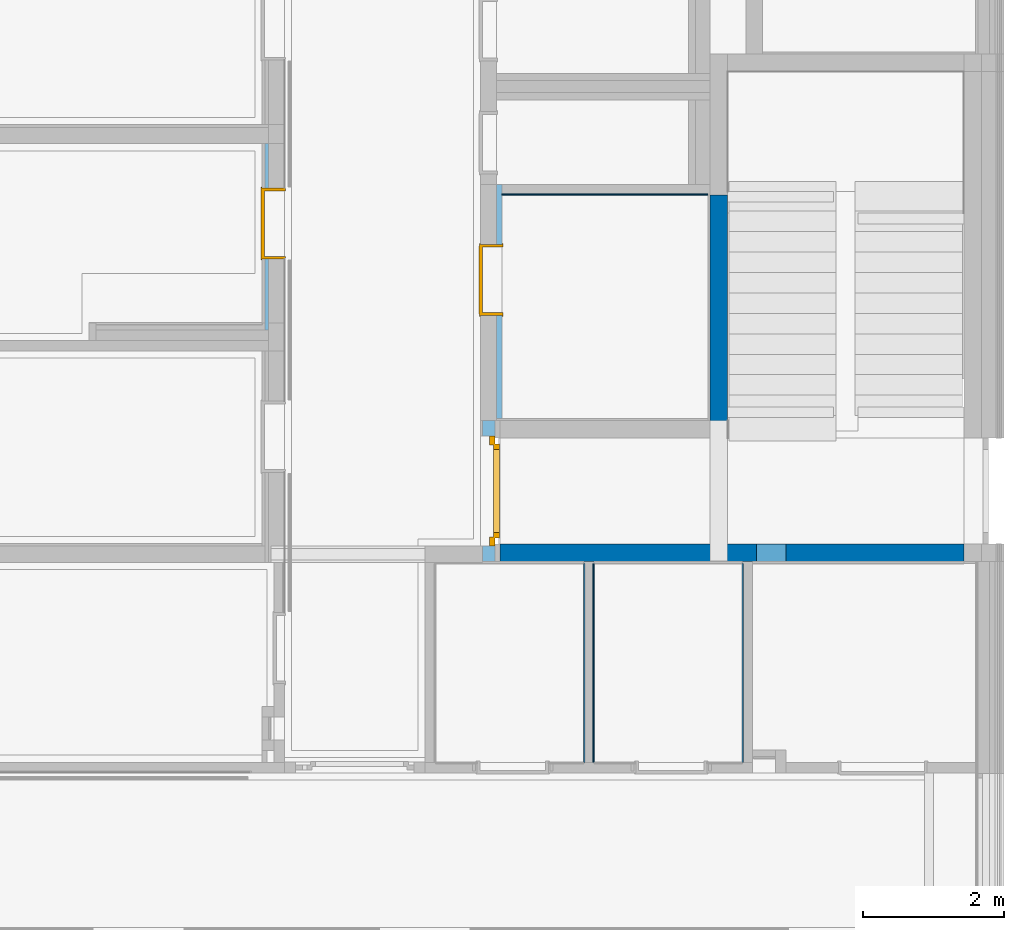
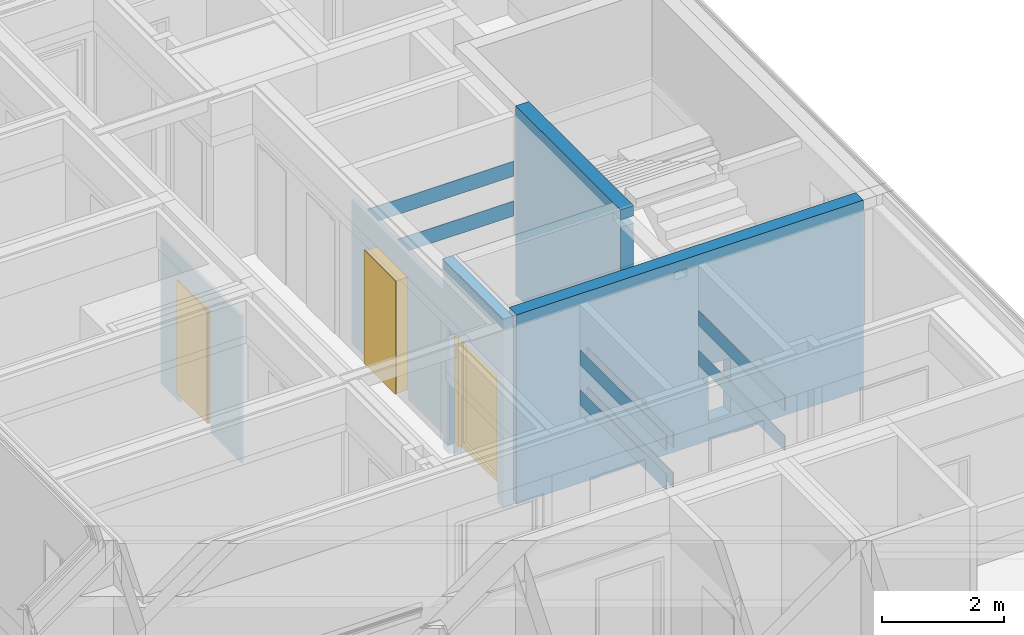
# One storey, part 141 of 207: 10 walls, 3 doors, 4 openings, plus 3 elements that do not belong to this part.
"""IFC4 building model written with IfcOpenShell, lengths in metres."""

from ifc_helpers import new_model, entity, si_unit, converted_unit, derived_unit, frame, frame_2d, origin, origin_with_axes, place, context, subcontext, project, spatial, polyline, rectangle, outline, extrude, closed_shell, open_shell, faceted_brep, surface_model, source, transform, mapped, material, type_object, element, fill, save


model = new_model("IFC4")

# Units and contexts
model_context = context("Model", 3, precision=1e-05, world=origin())
body_context = subcontext(model_context, "Body", "Model", "MODEL_VIEW")
ifc_project = project(units=[si_unit("LENGTHUNIT", "METRE"), si_unit("AREAUNIT", "SQUARE_METRE"), si_unit("VOLUMEUNIT", "CUBIC_METRE"), si_unit("MASSUNIT", "GRAM", prefix="KILO"), converted_unit("PLANEANGLEUNIT", "DEGREE", entity("IfcPlaneAngleMeasure", 0.0174532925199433), si_unit("PLANEANGLEUNIT", "RADIAN"), dimensions=[0, 0, 0, 0, 0, 0, 0]), derived_unit("THERMALTRANSMITTANCEUNIT", [(si_unit("POWERUNIT", "WATT"), 1), (si_unit("THERMODYNAMICTEMPERATUREUNIT", "KELVIN"), -1), (si_unit("LENGTHUNIT", "METRE"), -2)]), derived_unit("VOLUMETRICFLOWRATEUNIT", [(si_unit("LENGTHUNIT", "METRE"), 3), (converted_unit("TIMEUNIT", "hour", entity("IfcTimeMeasure", 3600.0), si_unit("TIMEUNIT", "SECOND"), dimensions=[0, 0, 1, 0, 0, 0, 0]), -1), (si_unit("LENGTHUNIT", "METRE"), -1)])], contexts=[model_context])

# Site, building, storey
site_placement = place(None, origin())
site = spatial("IfcSite", under=ifc_project, at=site_placement, Name="Psychiatrie Neubau Wunstorf", CompositionType="ELEMENT")
building_placement = place(site_placement, origin())
building = spatial("IfcBuilding", under=site, at=building_placement, Name="Neubau H2 Stationsgebäude", CompositionType="ELEMENT")
storey_placement = place(building_placement, frame((0.0, 0.0, -0.2)))
storey = spatial("IfcBuildingStorey", under=building, at=storey_placement, Name="H2 Ebene 0", CompositionType="ELEMENT", Elevation=-0.2)

# Walls
for number, where, name in (
    (1, (100.457, 7.77500025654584, 1.6), "WV 1.1"),
    (2, (100.325, 7.77500025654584, 1.6), "WV 1.1"),
    (3, (102.575, 7.77500025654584, 1.6), "WV 1.1"),
    (4, (100.457, 7.77500025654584, 2.4), "WV 1.1"),
    (5, (100.325, 7.77500025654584, 2.4), "WV 1.1"),
    (6, (102.575, 7.77500025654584, 2.4), "WV 1.1"),
):
    element("IfcWall", number, at=place(storey_placement, frame(where)), inside=storey, Name=name, context=body_context, shape_type="Brep", body=[
        faceted_brep([(0.0, 0.0, 0.0), (0.018, 0.0, 0.0), (0.018, 2.82, 0.0), (0.0, 2.82, 0.0), (0.018, 0.0, 0.3), (0.0, 0.0, 0.3), (0.0, 2.82, 0.3), (0.018, 2.82, 0.3)], [[[0, 1, 2, 3]], [[4, 5, 6, 7]], [[1, 0, 5, 4]], [[2, 1, 4, 7]], [[3, 2, 7, 6]], [[0, 3, 6, 5]]], orient=[[False], [False], [False], [False], [False], [False]]),
    ])
for number, where, name in (
    (7, (99.166, 15.8249998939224, 1.6), "WV 1.1"),
    (8, (99.166, 15.8249998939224, 2.4), "WV 1.1"),
):
    element("IfcWall", number, at=place(storey_placement, frame(where)), inside=storey, Name=name, context=body_context, shape_type="Brep", body=[
        faceted_brep([(0.0, 0.018, 0.0), (0.0, 0.0, 0.0), (2.92, 0.0, 0.0), (2.92, 0.018, 0.0), (0.0, 0.0, 0.3), (0.0, 0.018, 0.3), (2.92, 0.018, 0.3), (2.92, 0.0, 0.3)], [[[0, 1, 2, 3]], [[4, 5, 6, 7]], [[1, 0, 5, 4]], [[2, 1, 4, 7]], [[3, 2, 7, 6]], [[0, 3, 6, 5]]], orient=[[False], [False], [False], [False], [False], [False]]),
    ])

# Wall, opening, door
ifc_material_1 = material(Name="Installationsraum")
wall_1_placement = place(storey_placement, frame((95.8005000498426, 16.5535, 0.0), z_axis=(0.0, 0.0, 1.0), x_axis=(0.0, -1.0, 0.0)))
wall_1 = element("IfcWall", 9, at=wall_1_placement, inside=storey, material=ifc_material_1, context=body_context, shape_type="SweptSolid", body=[
    extrude(rectangle(XDim=2.64250003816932, YDim=0.05, at=frame_2d((1.32125001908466, 0.025), x_axis=(1.0, 0.0))), origin_with_axes(), (0.0, 0.0, 1.0), 2.95),
])
opening_1_placement = place(wall_1_placement, frame((1.63849999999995, 0.05, 0.0), z_axis=(0.0, -1.0, 0.0), x_axis=(0.0, 0.0, 1.0)))
opening_1 = element("IfcOpeningElement", 10, at=opening_1_placement, cuts=wall_1, Name="Türöffnung", ObjectType="Opening", context=body_context, shape_type="SweptSolid", body=[
    extrude(outline(polyline([(2.46, 1.01), (2.46, 0.0), (0.0, 0.0), (0.0, 1.01), (2.46, 1.01)])), origin_with_axes(), (0.0, 0.0, 1.0), 0.05),
])
ifc_material_2 = material(Name="TI-1F-UZ-ZK")
door_type_1 = type_object("IfcDoorType", Name="SMT", OperationType="SINGLE_SWING_RIGHT", ParameterTakesPrecedence=False, PredefinedType="DOOR")
shared_shape_1 = source(origin_with_axes(), body_context, "Body", "Brep", [
    faceted_brep([(1.01, -0.0149999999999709, 2.46), (1.01, -0.0149999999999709, 0.2), (0.969999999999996, -0.0149999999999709, 0.2), (0.969999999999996, -0.0149999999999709, 2.46), (1.01, 0.336499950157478, 0.2), (1.01, 0.336499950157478, 2.46), (0.969999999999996, 0.336499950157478, 2.46), (0.969999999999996, 0.336499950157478, 0.2)], [[[0, 1, 2, 3]], [[4, 5, 6, 7]], [[1, 0, 5, 4]], [[2, 1, 4, 7]], [[3, 2, 7, 6]], [[0, 3, 6, 5]]], orient=[[False], [False], [False], [False], [False], [False]]),
    faceted_brep([(1.01, -0.0149999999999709, 2.475), (1.025, -0.0149999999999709, 2.475), (1.025, -0.0149999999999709, 0.2), (1.01, -0.0149999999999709, 0.2), (1.01, 0.0, 0.2), (1.025, 0.0, 0.2), (1.025, 0.0, 2.475), (1.01, 0.0, 2.475)], [[[0, 1, 2, 3]], [[4, 5, 6, 7]], [[3, 4, 7, 0]], [[2, 5, 4, 3]], [[1, 6, 5, 2]], [[0, 7, 6, 1]]], orient=[[False], [False], [False], [False], [False], [False]]),
    faceted_brep([(1.01, 0.321499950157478, 2.475), (1.025, 0.321499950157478, 2.475), (1.025, 0.321499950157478, 0.2), (1.01, 0.321499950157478, 0.2), (1.01, 0.336499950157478, 0.2), (1.025, 0.336499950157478, 0.2), (1.025, 0.336499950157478, 2.475), (1.01, 0.336499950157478, 2.475)], [[[0, 1, 2, 3]], [[4, 5, 6, 7]], [[3, 4, 7, 0]], [[2, 5, 4, 3]], [[1, 6, 5, 2]], [[0, 7, 6, 1]]], orient=[[False], [False], [False], [False], [False], [False]]),
    faceted_brep([(0.0399999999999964, -0.0149999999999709, 2.46), (0.0399999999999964, -0.0149999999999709, 0.2), (0.0, -0.0149999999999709, 0.2), (0.0, -0.0149999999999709, 2.46), (0.0399999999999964, 0.336499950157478, 0.2), (0.0399999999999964, 0.336499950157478, 2.46), (0.0, 0.336499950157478, 2.46), (0.0, 0.336499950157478, 0.2)], [[[0, 1, 2, 3]], [[4, 5, 6, 7]], [[1, 0, 5, 4]], [[2, 1, 4, 7]], [[3, 2, 7, 6]], [[0, 3, 6, 5]]], orient=[[False], [False], [False], [False], [False], [False]]),
    faceted_brep([(0.0, -0.0149999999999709, 2.475), (0.0, -0.0149999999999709, 0.2), (-0.0150000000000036, -0.0149999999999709, 0.2), (-0.0150000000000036, -0.0149999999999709, 2.475), (0.0, 0.0, 0.2), (0.0, 0.0, 2.475), (-0.0150000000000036, 0.0, 2.475), (-0.0150000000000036, 0.0, 0.2)], [[[0, 1, 2, 3]], [[4, 5, 6, 7]], [[1, 0, 5, 4]], [[2, 1, 4, 7]], [[3, 2, 7, 6]], [[0, 3, 6, 5]]], orient=[[False], [False], [False], [False], [False], [False]]),
    faceted_brep([(0.0, 0.321499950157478, 2.475), (0.0, 0.321499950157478, 0.2), (-0.0150000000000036, 0.321499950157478, 0.2), (-0.0150000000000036, 0.321499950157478, 2.475), (0.0, 0.336499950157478, 0.2), (0.0, 0.336499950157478, 2.475), (-0.0150000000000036, 0.336499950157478, 2.475), (-0.0150000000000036, 0.336499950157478, 0.2)], [[[0, 1, 2, 3]], [[4, 5, 6, 7]], [[1, 0, 5, 4]], [[2, 1, 4, 7]], [[3, 2, 7, 6]], [[0, 3, 6, 5]]], orient=[[False], [False], [False], [False], [False], [False]]),
    faceted_brep([(0.969999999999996, -0.0149999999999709, 2.46), (0.969999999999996, -0.0149999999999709, 2.42), (0.0399999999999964, -0.0149999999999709, 2.42), (0.0399999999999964, -0.0149999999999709, 2.46), (0.969999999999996, 0.336499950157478, 2.42), (0.969999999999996, 0.336499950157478, 2.46), (0.0399999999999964, 0.336499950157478, 2.46), (0.0399999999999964, 0.336499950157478, 2.42)], [[[0, 1, 2, 3]], [[4, 5, 6, 7]], [[1, 0, 5, 4]], [[2, 1, 4, 7]], [[3, 2, 7, 6]], [[0, 3, 6, 5]]], orient=[[False], [False], [False], [False], [False], [False]]),
    faceted_brep([(1.01, -0.0149999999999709, 2.475), (1.01, -0.0149999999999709, 2.46), (0.0, -0.0149999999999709, 2.46), (0.0, -0.0149999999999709, 2.475), (1.01, 0.0, 2.46), (1.01, 0.0, 2.475), (0.0, 0.0, 2.475), (0.0, 0.0, 2.46)], [[[0, 1, 2, 3]], [[4, 5, 6, 7]], [[1, 0, 5, 4]], [[2, 1, 4, 7]], [[3, 2, 7, 6]], [[0, 3, 6, 5]]], orient=[[False], [False], [False], [False], [False], [False]]),
    faceted_brep([(1.01, 0.321499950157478, 2.475), (1.01, 0.321499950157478, 2.46), (0.0, 0.321499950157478, 2.46), (0.0, 0.321499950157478, 2.475), (1.01, 0.336499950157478, 2.46), (1.01, 0.336499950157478, 2.475), (0.0, 0.336499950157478, 2.475), (0.0, 0.336499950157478, 2.46)], [[[0, 1, 2, 3]], [[4, 5, 6, 7]], [[1, 0, 5, 4]], [[2, 1, 4, 7]], [[3, 2, 7, 6]], [[0, 3, 6, 5]]], orient=[[False], [False], [False], [False], [False], [False]]),
    faceted_brep([(0.984999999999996, 0.287499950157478, 2.435), (0.984999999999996, 0.287499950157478, 0.2), (0.0249999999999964, 0.287499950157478, 0.2), (0.0249999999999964, 0.287499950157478, 2.435), (0.984999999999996, 0.337499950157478, 0.2), (0.984999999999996, 0.337499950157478, 2.435), (0.0249999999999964, 0.337499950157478, 2.435), (0.0249999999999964, 0.337499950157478, 0.2)], [[[0, 1, 2, 3]], [[4, 5, 6, 7]], [[1, 0, 5, 4]], [[2, 1, 4, 7]], [[3, 2, 7, 6]], [[0, 3, 6, 5]]], orient=[[False], [False], [False], [False], [False], [False]]),
])
door_1_placement = place(opening_1_placement, frame((0.0, 0.0, -0.231999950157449), z_axis=(1.0, 0.0, 0.0), x_axis=(0.0, 1.0, 0.0)))
door_1 = element("IfcDoor", 11, at=door_1_placement, inside=storey, type_object=door_type_1, material=ifc_material_2, Name="SMT", OverallHeight=2.46, OverallWidth=1.01, context=body_context, shape_type="MappedRepresentation", body=[
    mapped(shared_shape_1, transform((0.0, 0.0, 0.0), x_axis=(1.0, 0.0, 0.0), y_axis=(0.0, 1.0, 0.0), z_axis=(0.0, 0.0, 1.0), scale=1.0)),
])
fill(opening_1, door_1)

ifc_material_3 = material(Name="WI-LB")
wall_2_placement = place(storey_placement, frame((99.166, 12.6550009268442, 0.0), z_axis=(0.0, 0.0, 1.0), x_axis=(0.0, 1.0, 0.0)))
wall_2 = element("IfcWall", 12, at=wall_2_placement, inside=storey, material=ifc_material_3, context=body_context, shape_type="SweptSolid", body=[
    extrude(rectangle(XDim=3.31999896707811, YDim=0.075, at=frame_2d((1.65999948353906, 0.0375), x_axis=(1.0, 0.0))), origin_with_axes(), (0.0, 0.0, 1.0), 2.9),
])
opening_2_placement = place(wall_2_placement, frame((2.47000039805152, 0.075, 0.0), z_axis=(0.0, -1.0, 0.0), x_axis=(0.0, 0.0, 1.0)))
opening_2 = element("IfcOpeningElement", 13, at=opening_2_placement, cuts=wall_2, Name="Türöffnung", ObjectType="Opening", context=body_context, shape_type="SweptSolid", body=[
    extrude(outline(polyline([(2.46, 1.01), (2.46, 0.0), (0.0, 0.0), (0.0, 1.01), (2.46, 1.01)])), origin_with_axes(), (0.0, 0.0, 1.0), 0.075),
])
ifc_material_4 = material(Name="TI-1F-UZ-ZK")
door_type_2 = type_object("IfcDoorType", Name="SMT", OperationType="SINGLE_SWING_RIGHT", ParameterTakesPrecedence=False, PredefinedType="DOOR")
shared_shape_2 = source(origin_with_axes(), body_context, "Body", "Brep", [
    faceted_brep([(1.01, -0.0149999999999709, 2.46), (1.01, -0.0149999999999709, 0.2), (0.969999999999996, -0.0149999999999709, 0.2), (0.969999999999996, -0.0149999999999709, 2.46), (1.01, 0.322000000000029, 0.2), (1.01, 0.322000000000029, 2.46), (0.969999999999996, 0.322000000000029, 2.46), (0.969999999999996, 0.322000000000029, 0.2)], [[[0, 1, 2, 3]], [[4, 5, 6, 7]], [[1, 0, 5, 4]], [[2, 1, 4, 7]], [[3, 2, 7, 6]], [[0, 3, 6, 5]]], orient=[[False], [False], [False], [False], [False], [False]]),
    faceted_brep([(1.01, -0.0149999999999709, 2.475), (1.025, -0.0149999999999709, 2.475), (1.025, -0.0149999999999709, 0.2), (1.01, -0.0149999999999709, 0.2), (1.01, 0.0, 0.2), (1.025, 0.0, 0.2), (1.025, 0.0, 2.475), (1.01, 0.0, 2.475)], [[[0, 1, 2, 3]], [[4, 5, 6, 7]], [[3, 4, 7, 0]], [[2, 5, 4, 3]], [[1, 6, 5, 2]], [[0, 7, 6, 1]]], orient=[[False], [False], [False], [False], [False], [False]]),
    faceted_brep([(1.01, 0.307000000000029, 2.475), (1.025, 0.307000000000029, 2.475), (1.025, 0.307000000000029, 0.2), (1.01, 0.307000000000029, 0.2), (1.01, 0.322000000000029, 0.2), (1.025, 0.322000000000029, 0.2), (1.025, 0.322000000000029, 2.475), (1.01, 0.322000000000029, 2.475)], [[[0, 1, 2, 3]], [[4, 5, 6, 7]], [[3, 4, 7, 0]], [[2, 5, 4, 3]], [[1, 6, 5, 2]], [[0, 7, 6, 1]]], orient=[[False], [False], [False], [False], [False], [False]]),
    faceted_brep([(0.0399999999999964, -0.0149999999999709, 2.46), (0.0399999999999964, -0.0149999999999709, 0.2), (0.0, -0.0149999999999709, 0.2), (0.0, -0.0149999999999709, 2.46), (0.0399999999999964, 0.322000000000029, 0.2), (0.0399999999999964, 0.322000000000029, 2.46), (0.0, 0.322000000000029, 2.46), (0.0, 0.322000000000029, 0.2)], [[[0, 1, 2, 3]], [[4, 5, 6, 7]], [[1, 0, 5, 4]], [[2, 1, 4, 7]], [[3, 2, 7, 6]], [[0, 3, 6, 5]]], orient=[[False], [False], [False], [False], [False], [False]]),
    faceted_brep([(0.0, -0.0149999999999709, 2.475), (0.0, -0.0149999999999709, 0.2), (-0.0150000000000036, -0.0149999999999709, 0.2), (-0.0150000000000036, -0.0149999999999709, 2.475), (0.0, 0.0, 0.2), (0.0, 0.0, 2.475), (-0.0150000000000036, 0.0, 2.475), (-0.0150000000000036, 0.0, 0.2)], [[[0, 1, 2, 3]], [[4, 5, 6, 7]], [[1, 0, 5, 4]], [[2, 1, 4, 7]], [[3, 2, 7, 6]], [[0, 3, 6, 5]]], orient=[[False], [False], [False], [False], [False], [False]]),
    faceted_brep([(0.0, 0.307000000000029, 2.475), (0.0, 0.307000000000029, 0.2), (-0.0150000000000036, 0.307000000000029, 0.2), (-0.0150000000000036, 0.307000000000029, 2.475), (0.0, 0.322000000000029, 0.2), (0.0, 0.322000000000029, 2.475), (-0.0150000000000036, 0.322000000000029, 2.475), (-0.0150000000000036, 0.322000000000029, 0.2)], [[[0, 1, 2, 3]], [[4, 5, 6, 7]], [[1, 0, 5, 4]], [[2, 1, 4, 7]], [[3, 2, 7, 6]], [[0, 3, 6, 5]]], orient=[[False], [False], [False], [False], [False], [False]]),
    faceted_brep([(0.969999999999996, -0.0149999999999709, 2.46), (0.969999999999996, -0.0149999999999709, 2.42), (0.0399999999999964, -0.0149999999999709, 2.42), (0.0399999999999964, -0.0149999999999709, 2.46), (0.969999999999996, 0.322000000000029, 2.42), (0.969999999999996, 0.322000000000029, 2.46), (0.0399999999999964, 0.322000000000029, 2.46), (0.0399999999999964, 0.322000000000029, 2.42)], [[[0, 1, 2, 3]], [[4, 5, 6, 7]], [[1, 0, 5, 4]], [[2, 1, 4, 7]], [[3, 2, 7, 6]], [[0, 3, 6, 5]]], orient=[[False], [False], [False], [False], [False], [False]]),
    faceted_brep([(1.01, -0.0149999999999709, 2.475), (1.01, -0.0149999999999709, 2.46), (0.0, -0.0149999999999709, 2.46), (0.0, -0.0149999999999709, 2.475), (1.01, 0.0, 2.46), (1.01, 0.0, 2.475), (0.0, 0.0, 2.475), (0.0, 0.0, 2.46)], [[[0, 1, 2, 3]], [[4, 5, 6, 7]], [[1, 0, 5, 4]], [[2, 1, 4, 7]], [[3, 2, 7, 6]], [[0, 3, 6, 5]]], orient=[[False], [False], [False], [False], [False], [False]]),
    faceted_brep([(1.01, 0.307000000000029, 2.475), (1.01, 0.307000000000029, 2.46), (0.0, 0.307000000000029, 2.46), (0.0, 0.307000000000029, 2.475), (1.01, 0.322000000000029, 2.46), (1.01, 0.322000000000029, 2.475), (0.0, 0.322000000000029, 2.475), (0.0, 0.322000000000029, 2.46)], [[[0, 1, 2, 3]], [[4, 5, 6, 7]], [[1, 0, 5, 4]], [[2, 1, 4, 7]], [[3, 2, 7, 6]], [[0, 3, 6, 5]]], orient=[[False], [False], [False], [False], [False], [False]]),
    faceted_brep([(0.984999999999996, 0.273000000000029, 2.435), (0.984999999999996, 0.273000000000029, 0.2), (0.0249999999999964, 0.273000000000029, 0.2), (0.0249999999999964, 0.273000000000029, 2.435), (0.984999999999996, 0.323000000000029, 0.2), (0.984999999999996, 0.323000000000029, 2.435), (0.0249999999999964, 0.323000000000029, 2.435), (0.0249999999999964, 0.323000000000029, 0.2)], [[[0, 1, 2, 3]], [[4, 5, 6, 7]], [[1, 0, 5, 4]], [[2, 1, 4, 7]], [[3, 2, 7, 6]], [[0, 3, 6, 5]]], orient=[[False], [False], [False], [False], [False], [False]]),
])
door_2_placement = place(opening_2_placement, frame((0.0, 1.01, 0.075), z_axis=(1.0, 0.0, 0.0), x_axis=(0.0, -1.0, 0.0)))
door_2 = element("IfcDoor", 14, at=door_2_placement, inside=storey, type_object=door_type_2, material=ifc_material_4, Name="SMT", OverallHeight=2.46, OverallWidth=1.01, context=body_context, shape_type="MappedRepresentation", body=[
    mapped(shared_shape_2, transform((0.0, 0.0, 0.0), x_axis=(1.0, 0.0, 0.0), y_axis=(0.0, 1.0, 0.0), z_axis=(0.0, 0.0, 1.0), scale=1.0)),
])
fill(opening_2, door_2)

ifc_material_5 = material(Name="WI-STB")
wall_3_placement = place(storey_placement, frame((99.0689919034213, 10.6249998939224, 0.0), z_axis=(0.0, 0.0, 1.0), x_axis=(0.0, 1.0, 0.0)))
wall_3 = element("IfcWall", 15, at=wall_3_placement, inside=storey, material=ifc_material_5, context=body_context, shape_type="SweptSolid", body=[
    extrude(rectangle(XDim=1.99998789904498, YDim=0.18, at=frame_2d((0.999993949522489, 0.09), x_axis=(1.0, 0.0))), origin_with_axes(), (0.0, 0.0, 1.0), 3.8),
])
opening_3_placement = place(wall_3_placement, frame((1.78, 0.18, 0.0), z_axis=(0.0, -1.0, 0.0), x_axis=(0.0, 0.0, 1.0)))
opening_3 = element("IfcOpeningElement", 16, at=opening_3_placement, cuts=wall_3, Name="Türöffnung", ObjectType="Opening", context=body_context, shape_type="SweptSolid", body=[
    extrude(outline(polyline([(2.55, 1.56), (2.55, 0.0), (0.0, 0.0), (0.0, 1.56), (2.55, 1.56)])), origin_with_axes(), (0.0, 0.0, 1.0), 0.18),
])
ifc_material_6 = material(Name="TI-1F-AG-D-O")
door_type_3 = type_object("IfcDoorType", Name="SMT", OperationType="SINGLE_SWING_LEFT", ParameterTakesPrecedence=False, PredefinedType="DOOR")
shared_shape_3 = source(origin_with_axes(), body_context, "Body", "SurfaceModel", [
    surface_model("IfcShellBasedSurfaceModel", [(1.56, 0.0800003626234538, 2.55), (1.51, 0.0800003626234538, 2.55), (1.51, 0.0800003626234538, 0.2), (1.56, 0.0800003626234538, 0.2), (1.56, 3.62623453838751e-07, 0.2), (1.51, 3.62623453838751e-07, 0.2), (1.51, 3.62623453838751e-07, 2.55), (1.56, 3.62623453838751e-07, 2.55)], [closed_shell([[[0, 1, 2, 3]], [[4, 5, 6, 7]], [[3, 4, 7, 0]], [[2, 5, 4, 3]], [[1, 6, 5, 2]], [[0, 7, 6, 1]]], orient=[[False], [False], [False], [False], [False], [False]])]),
    surface_model("IfcShellBasedSurfaceModel", [(0.0500000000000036, 0.0800003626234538, 2.55), (0.0, 0.0800003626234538, 2.55), (0.0, 0.0800003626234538, 0.2), (0.0500000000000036, 0.0800003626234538, 0.2), (0.0500000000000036, 3.62623453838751e-07, 0.2), (0.0, 3.62623453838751e-07, 0.2), (0.0, 3.62623453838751e-07, 2.55), (0.0500000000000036, 3.62623453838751e-07, 2.55)], [closed_shell([[[0, 1, 2, 3]], [[4, 5, 6, 7]], [[3, 4, 7, 0]], [[2, 5, 4, 3]], [[1, 6, 5, 2]], [[0, 7, 6, 1]]], orient=[[False], [False], [False], [False], [False], [False]])]),
    surface_model("IfcShellBasedSurfaceModel", [(1.51, 0.0800003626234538, 2.55), (0.0500000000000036, 0.0800003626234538, 2.55), (0.0500000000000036, 0.0800003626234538, 2.5), (1.51, 0.0800003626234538, 2.5), (1.51, 3.62623453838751e-07, 2.5), (0.0500000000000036, 3.62623453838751e-07, 2.5), (0.0500000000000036, 3.62623453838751e-07, 2.55), (1.51, 3.62623453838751e-07, 2.55)], [closed_shell([[[0, 1, 2, 3]], [[4, 5, 6, 7]], [[3, 4, 7, 0]], [[2, 5, 4, 3]], [[1, 6, 5, 2]], [[0, 7, 6, 1]]], orient=[[False], [False], [False], [False], [False], [False]])]),
    surface_model("IfcShellBasedSurfaceModel", [(1.51, 0.0800003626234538, 2.5), (1.43, 0.0800003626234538, 2.5), (1.43, 0.0800003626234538, 0.2), (1.51, 0.0800003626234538, 0.2), (1.51, 3.62623453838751e-07, 0.2), (1.43, 3.62623453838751e-07, 0.2), (1.43, 3.62623453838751e-07, 2.5), (1.51, 3.62623453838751e-07, 2.5)], [closed_shell([[[0, 1, 2, 3]], [[4, 5, 6, 7]], [[3, 4, 7, 0]], [[2, 5, 4, 3]], [[1, 6, 5, 2]], [[0, 7, 6, 1]]], orient=[[False], [False], [False], [False], [False], [False]])]),
    surface_model("IfcShellBasedSurfaceModel", [(0.130000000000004, 0.0800003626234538, 2.5), (0.0500000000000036, 0.0800003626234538, 2.5), (0.0500000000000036, 0.0800003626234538, 0.2), (0.130000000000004, 0.0800003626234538, 0.2), (0.130000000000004, 3.62623453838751e-07, 0.2), (0.0500000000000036, 3.62623453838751e-07, 0.2), (0.0500000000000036, 3.62623453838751e-07, 2.5), (0.130000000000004, 3.62623453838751e-07, 2.5)], [closed_shell([[[0, 1, 2, 3]], [[4, 5, 6, 7]], [[3, 4, 7, 0]], [[2, 5, 4, 3]], [[1, 6, 5, 2]], [[0, 7, 6, 1]]], orient=[[False], [False], [False], [False], [False], [False]])]),
    surface_model("IfcShellBasedSurfaceModel", [(1.43, 0.0800003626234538, 2.5), (0.130000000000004, 0.0800003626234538, 2.5), (0.130000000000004, 0.0800003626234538, 2.42), (1.43, 0.0800003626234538, 2.42), (1.43, 3.62623453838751e-07, 2.42), (0.130000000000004, 3.62623453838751e-07, 2.42), (0.130000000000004, 3.62623453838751e-07, 2.5), (1.43, 3.62623453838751e-07, 2.5)], [closed_shell([[[0, 1, 2, 3]], [[4, 5, 6, 7]], [[3, 4, 7, 0]], [[2, 5, 4, 3]], [[1, 6, 5, 2]], [[0, 7, 6, 1]]], orient=[[False], [False], [False], [False], [False], [False]])]),
    surface_model("IfcShellBasedSurfaceModel", [(1.45, 0.140000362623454, 2.44), (1.37, 0.140000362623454, 2.44), (1.37, 0.140000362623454, 0.18), (1.45, 0.140000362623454, 0.18), (1.45, 0.0600003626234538, 0.18), (1.37, 0.0600003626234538, 0.18), (1.37, 0.0600003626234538, 2.44), (1.45, 0.0600003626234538, 2.44)], [closed_shell([[[0, 1, 2, 3]], [[4, 5, 6, 7]], [[3, 4, 7, 0]], [[2, 5, 4, 3]], [[1, 6, 5, 2]], [[0, 7, 6, 1]]], orient=[[False], [False], [False], [False], [False], [False]])]),
    surface_model("IfcShellBasedSurfaceModel", [(0.190000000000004, 0.140000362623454, 2.44), (0.110000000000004, 0.140000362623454, 2.44), (0.110000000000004, 0.140000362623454, 0.18), (0.190000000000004, 0.140000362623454, 0.18), (0.190000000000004, 0.0600003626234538, 0.18), (0.110000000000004, 0.0600003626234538, 0.18), (0.110000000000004, 0.0600003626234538, 2.44), (0.190000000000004, 0.0600003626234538, 2.44)], [closed_shell([[[0, 1, 2, 3]], [[4, 5, 6, 7]], [[3, 4, 7, 0]], [[2, 5, 4, 3]], [[1, 6, 5, 2]], [[0, 7, 6, 1]]], orient=[[False], [False], [False], [False], [False], [False]])]),
    surface_model("IfcShellBasedSurfaceModel", [(1.37, 0.140000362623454, 0.3), (0.190000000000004, 0.140000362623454, 0.3), (0.190000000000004, 0.140000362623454, 0.18), (1.37, 0.140000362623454, 0.18), (1.37, 0.0600003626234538, 0.18), (0.190000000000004, 0.0600003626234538, 0.18), (0.190000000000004, 0.0600003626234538, 0.3), (1.37, 0.0600003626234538, 0.3)], [closed_shell([[[0, 1, 2, 3]], [[4, 5, 6, 7]], [[3, 4, 7, 0]], [[2, 5, 4, 3]], [[1, 6, 5, 2]], [[0, 7, 6, 1]]], orient=[[False], [False], [False], [False], [False], [False]])]),
    surface_model("IfcShellBasedSurfaceModel", [(1.37, 0.140000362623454, 2.44), (0.190000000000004, 0.140000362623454, 2.44), (0.190000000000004, 0.140000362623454, 2.36), (1.37, 0.140000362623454, 2.36), (1.37, 0.0600003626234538, 2.36), (0.190000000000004, 0.0600003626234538, 2.36), (0.190000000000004, 0.0600003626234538, 2.44), (1.37, 0.0600003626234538, 2.44)], [closed_shell([[[0, 1, 2, 3]], [[4, 5, 6, 7]], [[3, 4, 7, 0]], [[2, 5, 4, 3]], [[1, 6, 5, 2]], [[0, 7, 6, 1]]], orient=[[False], [False], [False], [False], [False], [False]])]),
    surface_model("IfcShellBasedSurfaceModel", [(1.37, 0.100000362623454, 0.3), (1.37, 0.100000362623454, 2.36), (0.190000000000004, 0.100000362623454, 2.36), (0.190000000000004, 0.100000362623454, 0.3)], [open_shell([[[0, 1, 2, 3]]], orient=[[False]])]),
])
door_3_placement = place(opening_3_placement, frame((0.0, 0.0, 0.1), z_axis=(1.0, 0.0, 0.0), x_axis=(0.0, 1.0, 0.0)))
door_3 = element("IfcDoor", 17, at=door_3_placement, inside=storey, type_object=door_type_3, material=ifc_material_6, Name="SMT", OverallHeight=2.55, OverallWidth=1.56, context=body_context, shape_type="MappedRepresentation", body=[
    mapped(shared_shape_3, transform((0.0, 0.0, 0.0), x_axis=(1.0, 0.0, 0.0), y_axis=(0.0, 1.0, 0.0), z_axis=(0.0, 0.0, 1.0), scale=1.0)),
])
fill(opening_3, door_3)

# Wall
ifc_material_7 = material(Name="WI-STB")
wall_4_placement = place(storey_placement, frame((102.12, 12.3749998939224, 0.0)))
element("IfcWall", 18, at=wall_4_placement, inside=storey, material=ifc_material_7, context=body_context, shape_type="Brep", body=[
    faceted_brep([(0.25, 0.25, 3.6), (0.25, 0.25, 3.45), (0.0, 0.25, 3.45), (0.0, 0.25, 3.6), (0.0, 0.0, 3.6), (0.25, 0.0, 3.6), (0.25, 0.0, 3.45), (0.0, 0.0, 3.45), (0.0, 0.0, 3.8), (0.25, 0.0, 3.8), (0.25, 3.45, 3.8), (0.25, 3.45, 0.0), (0.25, 0.0, 0.0), (0.0, 0.0, 0.0), (0.0, 3.45, 0.0), (0.0, 3.45, 3.8)], [[[0, 1, 2, 3]], [[3, 4, 5, 0]], [[1, 6, 7, 2]], [[4, 8, 9, 5]], [[5, 9, 10, 11, 12, 6, 1, 0]], [[6, 12, 13, 7]], [[3, 2, 7, 13, 14, 15, 8, 4]], [[14, 11, 10, 15]], [[15, 10, 9, 8]], [[11, 14, 13, 12]]], orient=[[False], [False], [False], [False], [False], [False], [False], [False], [False], [False]]),
])

# Wall, opening
ifc_material_8 = material(Name="WI-STB")
wall_5_placement = place(storey_placement, frame((99.1389919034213, 10.6249998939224, 0.0)))
wall_5 = element("IfcWall", 19, at=wall_5_placement, inside=storey, material=ifc_material_8, context=body_context, shape_type="Brep", body=[
    faceted_brep([(3.23100809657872, 0.0, 3.45), (2.98100809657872, 0.0, 3.45), (2.98100809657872, 0.25, 3.45), (3.23100809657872, 0.25, 3.45), (3.23100809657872, 0.25, 3.6), (2.98100809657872, 0.25, 3.6), (2.98100809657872, 0.0, 3.6), (3.23100809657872, 0.0, 3.6), (6.58100809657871, 0.0, 0.0), (0.0, 0.0, 0.0), (0.0, 0.0, 3.8), (6.58100809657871, 0.0, 3.8), (0.0, 0.25, 0.0), (0.0, 0.25, 3.8), (6.58100809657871, 0.25, 0.0), (6.58100809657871, 0.25, 3.8)], [[[0, 1, 2, 3]], [[4, 5, 6, 7]], [[7, 0, 3, 4]], [[5, 2, 1, 6]], [[8, 9, 10, 11], [0, 7, 6, 1]], [[9, 12, 13, 10]], [[12, 14, 15, 13], [2, 5, 4, 3]], [[14, 8, 11, 15]], [[15, 11, 10, 13]], [[8, 14, 12, 9]]], orient=[[False], [False], [False], [False], [False, False], [False], [False, False], [False], [False], [False]]),
])
opening_4_placement = place(wall_5_placement, frame((4.06066321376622, 0.25, 0.4), z_axis=(0.0, -1.0, 0.0), x_axis=(0.0, 0.0, 1.0)))
element("IfcOpeningElement", 20, at=opening_4_placement, cuts=wall_5, Name="Wandnische", ObjectType="Opening", context=body_context, shape_type="SweptSolid", body=[
    extrude(outline(polyline([(1.12, 0.42), (1.12, 0.0), (0.0, 0.0), (0.0, 0.42), (1.12, 0.42)])), origin_with_axes(), (0.0, 0.0, 1.0), 0.25),
])

save(model, "model.ifc")
